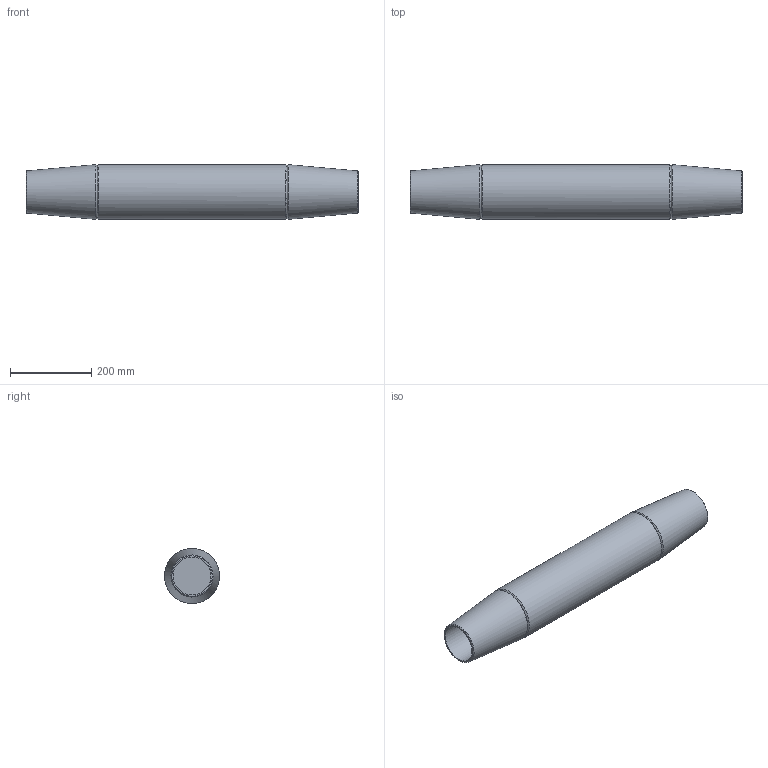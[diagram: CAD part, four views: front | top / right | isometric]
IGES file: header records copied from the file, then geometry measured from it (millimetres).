
Global section: file name: 520-090-MUF; native system: Autodesk Inventor 2016; preprocessor: unknown; author: Administrator; date: 20200630.132400; units: centimetre
Bounding box: 816 x 135 x 134.81 mm (x, y, z)
Volume: 8814247.4 mm3; surface area: 422909.3 mm2
Topology: 1 solids, 1 shells, 15 faces, 35 edges, 24 vertices
Faces by surface type: bspline 15
